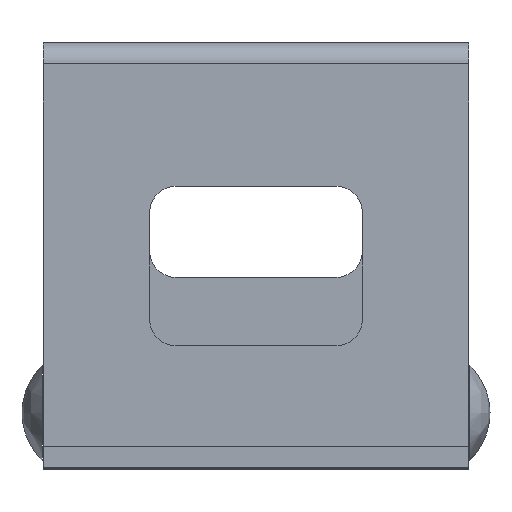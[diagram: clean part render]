
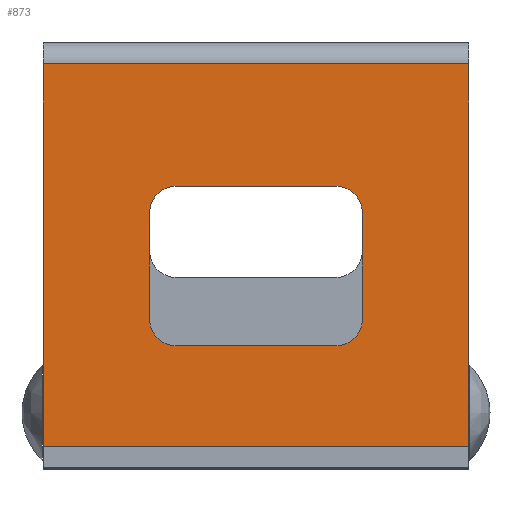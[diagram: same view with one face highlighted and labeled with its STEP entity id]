
A CAD part, top view. The second image highlights one B-rep face of the part: STEP entity #873.
In plain terms, the highlighted planar face has unit normal (0, 0, 1).
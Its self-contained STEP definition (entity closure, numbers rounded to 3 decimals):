
#113 = VERTEX_POINT ( 'NONE', #1376 ) ;
#622 = EDGE_CURVE ( 'NONE', #624, #969, #2337, .T. ) ;
#624 = VERTEX_POINT ( 'NONE', #2273 ) ;
#719 = VERTEX_POINT ( 'NONE', #1914 ) ;
#724 = VERTEX_POINT ( 'NONE', #1920 ) ;
#755 = EDGE_CURVE ( 'NONE', #719, #831, #2495, .T. ) ;
#761 = EDGE_CURVE ( 'NONE', #831, #812, #2457, .T. ) ;
#764 = EDGE_CURVE ( 'NONE', #969, #113, #2356, .T. ) ;
#794 = EDGE_CURVE ( 'NONE', #803, #624, #2532, .T. ) ;
#800 = EDGE_CURVE ( 'NONE', #807, #803, #2528, .T. ) ;
#803 = VERTEX_POINT ( 'NONE', #2526 ) ;
#807 = VERTEX_POINT ( 'NONE', #2541 ) ;
#812 = VERTEX_POINT ( 'NONE', #2517 ) ;
#825 = EDGE_CURVE ( 'NONE', #113, #719, #2490, .T. ) ;
#829 = EDGE_CURVE ( 'NONE', #812, #807, #2410, .T. ) ;
#831 = VERTEX_POINT ( 'NONE', #2404 ) ;
#855 = EDGE_CURVE ( 'NONE', #724, #859, #2741, .T. ) ;
#856 = ORIENTED_EDGE ( 'NONE', *, *, #857, .T. ) ;
#857 = EDGE_CURVE ( 'NONE', #859, #858, #2743, .T. ) ;
#858 = VERTEX_POINT ( 'NONE', #2732 ) ;
#859 = VERTEX_POINT ( 'NONE', #2737 ) ;
#860 = ORIENTED_EDGE ( 'NONE', *, *, #1110, .F. ) ;
#861 = ORIENTED_EDGE ( 'NONE', *, *, #855, .T. ) ;
#862 = ORIENTED_EDGE ( 'NONE', *, *, #825, .F. ) ;
#865 = ORIENTED_EDGE ( 'NONE', *, *, #829, .F. ) ;
#867 = EDGE_LOOP ( 'NONE', ( #875, #865, #874, #877, #862, #870, #868, #872 ) ) ;
#868 = ORIENTED_EDGE ( 'NONE', *, *, #622, .F. ) ;
#869 = EDGE_LOOP ( 'NONE', ( #871, #861, #856, #860 ) ) ;
#870 = ORIENTED_EDGE ( 'NONE', *, *, #764, .F. ) ;
#871 = ORIENTED_EDGE ( 'NONE', *, *, #891, .F. ) ;
#872 = ORIENTED_EDGE ( 'NONE', *, *, #794, .F. ) ;
#873 = ADVANCED_FACE ( 'NONE', ( #2744, #2728 ), #2735, .F. ) ;
#874 = ORIENTED_EDGE ( 'NONE', *, *, #761, .F. ) ;
#875 = ORIENTED_EDGE ( 'NONE', *, *, #800, .F. ) ;
#877 = ORIENTED_EDGE ( 'NONE', *, *, #755, .F. ) ;
#884 = VERTEX_POINT ( 'NONE', #2781 ) ;
#891 = EDGE_CURVE ( 'NONE', #724, #884, #2630, .T. ) ;
#969 = VERTEX_POINT ( 'NONE', #2693 ) ;
#1110 = EDGE_CURVE ( 'NONE', #884, #858, #2954, .T. ) ;
#1376 = CARTESIAN_POINT ( 'NONE',  ( -10., 8.75, 38.75 ) ) ;
#1914 = CARTESIAN_POINT ( 'NONE',  ( -7.5, 6.25, 38.75 ) ) ;
#1920 = CARTESIAN_POINT ( 'NONE',  ( -20., 32.75, 38.75 ) ) ;
#2163 = DIRECTION ( 'NONE',  ( 1., 0., 0. ) ) ;
#2164 = DIRECTION ( 'NONE',  ( 0., 0., 1. ) ) ;
#2165 = CARTESIAN_POINT ( 'NONE',  ( -7.5, 18.75, 38.75 ) ) ;
#2166 = AXIS2_PLACEMENT_3D ( 'NONE', #2165, #2164, #2163 ) ;
#2273 = CARTESIAN_POINT ( 'NONE',  ( -7.5, 21.25, 38.75 ) ) ;
#2337 = CIRCLE ( 'NONE', #2166, 2.5 ) ;
#2356 = LINE ( 'NONE', #2365, #2440 ) ;
#2364 = DIRECTION ( 'NONE',  ( 0., -1., 0. ) ) ;
#2365 = CARTESIAN_POINT ( 'NONE',  ( -10., 14.75, 38.75 ) ) ;
#2366 = AXIS2_PLACEMENT_3D ( 'NONE', #2447, #2446, #2445 ) ;
#2369 = DIRECTION ( 'NONE',  ( 1., 0., 0. ) ) ;
#2370 = VECTOR ( 'NONE', #2369, 1000. ) ;
#2404 = CARTESIAN_POINT ( 'NONE',  ( 7.5, 6.25, 38.75 ) ) ;
#2406 = VECTOR ( 'NONE', #2408, 1000. ) ;
#2408 = DIRECTION ( 'NONE',  ( 0., 1., 0. ) ) ;
#2409 = CARTESIAN_POINT ( 'NONE',  ( 10., 14.75, 38.75 ) ) ;
#2410 = LINE ( 'NONE', #2409, #2406 ) ;
#2413 = DIRECTION ( 'NONE',  ( 1., 0., 0. ) ) ;
#2440 = VECTOR ( 'NONE', #2364, 1000. ) ;
#2445 = DIRECTION ( 'NONE',  ( 1., 0., 0. ) ) ;
#2446 = DIRECTION ( 'NONE',  ( 0., 0., 1. ) ) ;
#2447 = CARTESIAN_POINT ( 'NONE',  ( 7.5, 8.75, 38.75 ) ) ;
#2457 = CIRCLE ( 'NONE', #2366, 2.5 ) ;
#2481 = CARTESIAN_POINT ( 'NONE',  ( -7.5, 8.75, 38.75 ) ) ;
#2483 = DIRECTION ( 'NONE',  ( 0., 0., 1. ) ) ;
#2489 = AXIS2_PLACEMENT_3D ( 'NONE', #2481, #2483, #2413 ) ;
#2490 = CIRCLE ( 'NONE', #2489, 2.5 ) ;
#2494 = CARTESIAN_POINT ( 'NONE',  ( 0., 6.25, 38.75 ) ) ;
#2495 = LINE ( 'NONE', #2494, #2370 ) ;
#2517 = CARTESIAN_POINT ( 'NONE',  ( 10., 8.75, 38.75 ) ) ;
#2526 = CARTESIAN_POINT ( 'NONE',  ( 7.5, 21.25, 38.75 ) ) ;
#2528 = CIRCLE ( 'NONE', #2533, 2.5 ) ;
#2529 = DIRECTION ( 'NONE',  ( -1., 0., 0. ) ) ;
#2530 = VECTOR ( 'NONE', #2529, 1000. ) ;
#2531 = CARTESIAN_POINT ( 'NONE',  ( 0., 21.25, 38.75 ) ) ;
#2532 = LINE ( 'NONE', #2531, #2530 ) ;
#2533 = AXIS2_PLACEMENT_3D ( 'NONE', #2537, #2536, #2549 ) ;
#2536 = DIRECTION ( 'NONE',  ( 0., 0., 1. ) ) ;
#2537 = CARTESIAN_POINT ( 'NONE',  ( 7.5, 18.75, 38.75 ) ) ;
#2541 = CARTESIAN_POINT ( 'NONE',  ( 10., 18.75, 38.75 ) ) ;
#2549 = DIRECTION ( 'NONE',  ( 1., 0., 0. ) ) ;
#2627 = DIRECTION ( 'NONE',  ( 1., 0., 0. ) ) ;
#2628 = VECTOR ( 'NONE', #2627, 1000. ) ;
#2629 = CARTESIAN_POINT ( 'NONE',  ( 0., 32.75, 38.75 ) ) ;
#2630 = LINE ( 'NONE', #2629, #2628 ) ;
#2693 = CARTESIAN_POINT ( 'NONE',  ( -10., 18.75, 38.75 ) ) ;
#2728 = FACE_OUTER_BOUND ( 'NONE', #869, .T. ) ;
#2729 = DIRECTION ( 'NONE',  ( 1., 0., 0. ) ) ;
#2730 = VECTOR ( 'NONE', #2729, 1000. ) ;
#2731 = CARTESIAN_POINT ( 'NONE',  ( 0., -3.25, 38.75 ) ) ;
#2732 = CARTESIAN_POINT ( 'NONE',  ( 20., -3.25, 38.75 ) ) ;
#2733 = DIRECTION ( 'NONE',  ( 0., -1., 0. ) ) ;
#2734 = VECTOR ( 'NONE', #2733, 1000. ) ;
#2735 = PLANE ( 'NONE',  #2797 ) ;
#2737 = CARTESIAN_POINT ( 'NONE',  ( -20., -3.25, 38.75 ) ) ;
#2740 = CARTESIAN_POINT ( 'NONE',  ( -20., 14.75, 38.75 ) ) ;
#2741 = LINE ( 'NONE', #2740, #2734 ) ;
#2743 = LINE ( 'NONE', #2731, #2730 ) ;
#2744 = FACE_BOUND ( 'NONE', #867, .T. ) ;
#2781 = CARTESIAN_POINT ( 'NONE',  ( 20., 32.75, 38.75 ) ) ;
#2787 = DIRECTION ( 'NONE',  ( 0., 1., 0. ) ) ;
#2788 = DIRECTION ( 'NONE',  ( 0., 0., -1. ) ) ;
#2789 = CARTESIAN_POINT ( 'NONE',  ( -20., -3.25, 38.75 ) ) ;
#2797 = AXIS2_PLACEMENT_3D ( 'NONE', #2789, #2788, #2787 ) ;
#2942 = DIRECTION ( 'NONE',  ( 0., -1., 0. ) ) ;
#2943 = VECTOR ( 'NONE', #2942, 1000. ) ;
#2953 = CARTESIAN_POINT ( 'NONE',  ( 20., 14.75, 38.75 ) ) ;
#2954 = LINE ( 'NONE', #2953, #2943 ) ;
